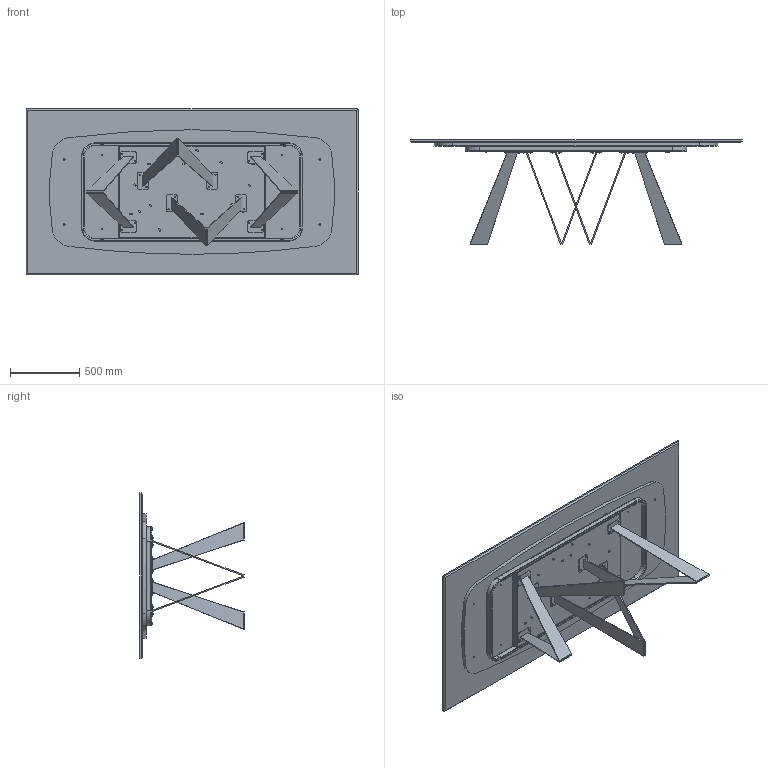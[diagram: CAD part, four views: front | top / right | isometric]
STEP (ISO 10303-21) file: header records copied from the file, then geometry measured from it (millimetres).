
FILE_DESCRIPTION (( 'STEP AP203' ), '1' );
FILE_NAME ('NO23M_Noa_240x120x75h_Marble Rectangular.STEP', '2024-08-07T14:25:07', ( '' ), ( '' ), 'SwSTEP 2.0', 'SolidWorks 2022', '' );
FILE_SCHEMA (( 'CONFIG_CONTROL_DESIGN' ));
Length unit declared in the file: millimetre
Products named in the file (17): NOA000001PTRS-00-Piastra rettangoalre con fori; MAPPA; Assieme NOA var 3_noa 200-240; TTAV06_02-01-VASSOIO TAVOLI PLAI ONDA NOA 240; rondella M8_8X16; TTAV06_01-01-STRUTTURA X TAVOLI PLAI ONDA NOA 240_Default<A macchina>; M2XMXX-00-Piani rettangolari in marmo_2400x1200; TRUXXXXXX-00-NOBILITATO GR CON SUPP TRUCIOLARE SP. 25_TRU00007_2100x900; NOA000000-00-NOA BASE GREZZA; TTAV06-01-TELAIO X TAVOLI PLAI ONDA NOA 240cm_TTAV06; M8xXXmm_M8x55mm; NOA000001GMB-00-Piastra Principale gamba NOA_Piatto DX; NO23M_Noa_240x120x75h_Marble Rectangular; 434070-00-PIEDINO TPV GOMMA NERO D. 30x8max18; M2X-00-Piani rettangolari marmo_2400*1200; NOA000001GMB-00-Piastra Principale gamba NOA_Piatto SX; M8xXXmm_M8x16mm
Assembly tree (57 placements, depth 4):
  MAPPA
  NO23M_Noa_240x120x75h_Marble Rectangular
    M2XMXX-00-Piani rettangolari in marmo_2400x1200
      M2X-00-Piani rettangolari marmo_2400*1200
      TRUXXXXXX-00-NOBILITATO GR CON SUPP TRUCIOLARE SP. 25_TRU00007_2100x900
    Assieme NOA var 3_noa 200-240
      NOA000000-00-NOA BASE GREZZA  x4
        NOA000001GMB-00-Piastra Principale gamba NOA_Piatto SX
        NOA000001GMB-00-Piastra Principale gamba NOA_Piatto DX
        NOA000001PTRS-00-Piastra rettangoalre con fori
      TTAV06-01-TELAIO X TAVOLI PLAI ONDA NOA 240cm_TTAV06
        TTAV06_02-01-VASSOIO TAVOLI PLAI ONDA NOA 240
        TTAV06_01-01-STRUTTURA X TAVOLI PLAI ONDA NOA 240_Default<A macchina>
    M8xXXmm_M8x55mm  x4
    rondella M8_8X16  x20
    M8xXXmm_M8x16mm  x16
    434070-00-PIEDINO TPV GOMMA NERO D. 30x8max18  x2
Bounding box: 2400 x 754.8 x 1200 mm (x, y, z)
Volume: 109425955.7 mm3; surface area: 13487978.1 mm2
Topology: 71 solids, 71 shells, 1723 faces, 3961 edges, 2341 vertices
Faces by surface type: plane 642, cylinder 455, cone 346, torus 280
Entity records: 24457 total; most frequent: DIRECTION 4005, CARTESIAN_POINT 3775, ORIENTED_EDGE 3494, EDGE_CURVE 1747, AXIS2_PLACEMENT_3D 1523, VERTEX_POINT 1089, VECTOR 959, LINE 959
